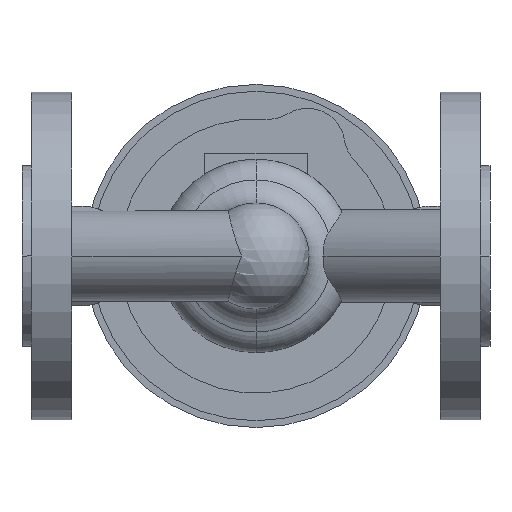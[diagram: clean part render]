
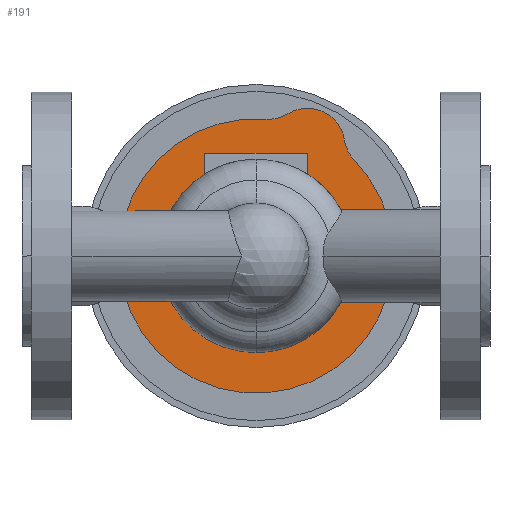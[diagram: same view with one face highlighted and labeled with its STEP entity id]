
A CAD part, front view. The second image highlights one B-rep face of the part: STEP entity #191.
In plain terms, the highlighted planar face has unit normal (0, -1, 0).
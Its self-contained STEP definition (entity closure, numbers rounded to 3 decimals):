
#191 = ADVANCED_FACE( '', ( #498, #499 ), #500, .F. );
#498 = FACE_OUTER_BOUND( '', #880, .T. );
#499 = FACE_BOUND( '', #881, .T. );
#500 = PLANE( '', #882 );
#880 = EDGE_LOOP( '', ( #1988, #1989, #1990, #1991, #1992 ) );
#881 = EDGE_LOOP( '', ( #1993, #1994 ) );
#882 = AXIS2_PLACEMENT_3D( '', #1995, #1996, #1997 );
#1988 = ORIENTED_EDGE( '', *, *, #2558, .F. );
#1989 = ORIENTED_EDGE( '', *, *, #2820, .F. );
#1990 = ORIENTED_EDGE( '', *, *, #2821, .F. );
#1991 = ORIENTED_EDGE( '', *, *, #2822, .F. );
#1992 = ORIENTED_EDGE( '', *, *, #2823, .F. );
#1993 = ORIENTED_EDGE( '', *, *, #2550, .T. );
#1994 = ORIENTED_EDGE( '', *, *, #2824, .T. );
#1995 = CARTESIAN_POINT( '', ( 0., 106.4, 0. ) );
#1996 = DIRECTION( '', ( 0., 1., 0. ) );
#1997 = DIRECTION( '', ( 0., 0., 1. ) );
#2550 = EDGE_CURVE( '', #3104, #3108, #3110, .T. );
#2558 = EDGE_CURVE( '', #3124, #3120, #3126, .T. );
#2820 = EDGE_CURVE( '', #3551, #3124, #3552, .T. );
#2821 = EDGE_CURVE( '', #3553, #3551, #3554, .T. );
#2822 = EDGE_CURVE( '', #3555, #3553, #3556, .T. );
#2823 = EDGE_CURVE( '', #3120, #3555, #3557, .T. );
#2824 = EDGE_CURVE( '', #3108, #3104, #3558, .T. );
#3104 = VERTEX_POINT( '', #4004 );
#3108 = VERTEX_POINT( '', #4009 );
#3110 = CIRCLE( '', #4012, 30.033 );
#3120 = VERTEX_POINT( '', #4024 );
#3124 = VERTEX_POINT( '', #4029 );
#3126 = CIRCLE( '', #4032, 44. );
#3551 = VERTEX_POINT( '', #5402 );
#3552 = CIRCLE( '', #5403, 12. );
#3553 = VERTEX_POINT( '', #5404 );
#3554 = CIRCLE( '', #5405, 12. );
#3555 = VERTEX_POINT( '', #5406 );
#3556 = CIRCLE( '', #5407, 12. );
#3557 = CIRCLE( '', #5408, 44. );
#3558 = CIRCLE( '', #5409, 30.033 );
#4004 = CARTESIAN_POINT( '', ( 105.033, 106.4, 0. ) );
#4009 = CARTESIAN_POINT( '', ( 44.967, 106.4, 0. ) );
#4012 = AXIS2_PLACEMENT_3D( '', #5775, #5776, #5777 );
#4024 = CARTESIAN_POINT( '', ( 43.41, 106.4, -30.628 ) );
#4029 = CARTESIAN_POINT( '', ( 106.59, 106.4, 30.628 ) );
#4032 = AXIS2_PLACEMENT_3D( '', #5791, #5792, #5793 );
#5402 = CARTESIAN_POINT( '', ( 103.344, 106.4, 37.164 ) );
#5403 = AXIS2_PLACEMENT_3D( '', #6271, #6272, #6273 );
#5404 = CARTESIAN_POINT( '', ( 85.25, 106.4, 45.601 ) );
#5405 = AXIS2_PLACEMENT_3D( '', #6274, #6275, #6276 );
#5406 = CARTESIAN_POINT( '', ( 78.157, 106.4, 43.887 ) );
#5407 = AXIS2_PLACEMENT_3D( '', #6277, #6278, #6279 );
#5408 = AXIS2_PLACEMENT_3D( '', #6280, #6281, #6282 );
#5409 = AXIS2_PLACEMENT_3D( '', #6283, #6284, #6285 );
#5775 = CARTESIAN_POINT( '', ( 75., 106.4, 0. ) );
#5776 = DIRECTION( '', ( 0., 1., 0. ) );
#5777 = DIRECTION( '', ( 1., 0., 0. ) );
#5791 = CARTESIAN_POINT( '', ( 75., 106.4, 0. ) );
#5792 = DIRECTION( '', ( 0., 1., 0. ) );
#5793 = DIRECTION( '', ( 0.718, 0., 0.696 ) );
#6271 = CARTESIAN_POINT( '', ( 115.205, 106.4, 38.981 ) );
#6272 = DIRECTION( '', ( 0., -1., 0. ) );
#6273 = DIRECTION( '', ( -0.988, 0., -0.151 ) );
#6274 = CARTESIAN_POINT( '', ( 91.482, 106.4, 35.346 ) );
#6275 = DIRECTION( '', ( 0., 1., 0. ) );
#6276 = DIRECTION( '', ( -0.519, 0., 0.855 ) );
#6277 = CARTESIAN_POINT( '', ( 79.018, 106.4, 55.856 ) );
#6278 = DIRECTION( '', ( 0., -1., 0. ) );
#6279 = DIRECTION( '', ( -0.072, 0., -0.997 ) );
#6280 = CARTESIAN_POINT( '', ( 75., 106.4, 0. ) );
#6281 = DIRECTION( '', ( 0., 1., 0. ) );
#6282 = DIRECTION( '', ( 0.718, 0., 0.696 ) );
#6283 = CARTESIAN_POINT( '', ( 75., 106.4, 0. ) );
#6284 = DIRECTION( '', ( 0., 1., 0. ) );
#6285 = DIRECTION( '', ( 1., 0., 0. ) );
